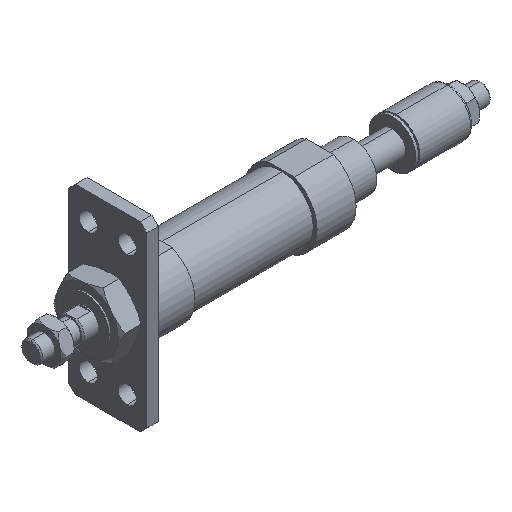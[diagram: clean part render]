
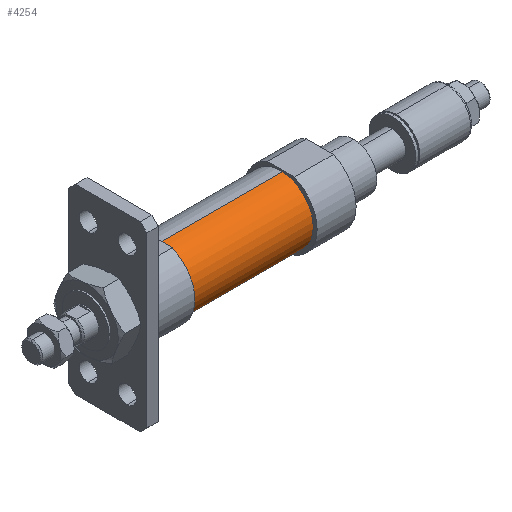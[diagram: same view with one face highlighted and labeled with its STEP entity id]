
A CAD part, isometric view. The second image highlights one B-rep face of the part: STEP entity #4254.
In plain terms, the highlighted cylindrical face has radius 12.5 mm (diameter 25 mm), a partial arc.
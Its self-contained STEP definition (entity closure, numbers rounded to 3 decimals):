
#140 = CARTESIAN_POINT ( 'NONE',  ( 23.5, 0., -12.5 ) ) ;
#209 = EDGE_CURVE ( 'NONE', #1628, #1001, #1740, .T. ) ;
#301 = CARTESIAN_POINT ( 'NONE',  ( 23.5, 0., -12.5 ) ) ;
#316 = DIRECTION ( 'NONE',  ( 0., 0., 1. ) ) ;
#402 = DIRECTION ( 'NONE',  ( -1., 0., 0. ) ) ;
#616 = EDGE_CURVE ( 'NONE', #3781, #2758, #1072, .T. ) ;
#769 = CARTESIAN_POINT ( 'NONE',  ( 23.5, 0., 0. ) ) ;
#902 = DIRECTION ( 'NONE',  ( 0., 0., -1. ) ) ;
#959 = VECTOR ( 'NONE', #2240, 1000. ) ;
#1001 = VERTEX_POINT ( 'NONE', #140 ) ;
#1072 = CIRCLE ( 'NONE', #2599, 12.5 ) ;
#1362 = EDGE_LOOP ( 'NONE', ( #3340, #2201, #3021, #4106 ) ) ;
#1401 = CARTESIAN_POINT ( 'NONE',  ( 23.5, 0., 12.5 ) ) ;
#1549 = CARTESIAN_POINT ( 'NONE',  ( -23.5, 0., -12.5 ) ) ;
#1580 = CARTESIAN_POINT ( 'NONE',  ( 23.5, 0., 12.5 ) ) ;
#1628 = VERTEX_POINT ( 'NONE', #1401 ) ;
#1740 = CIRCLE ( 'NONE', #2864, 12.5 ) ;
#1748 = DIRECTION ( 'NONE',  ( 0., 0., -1. ) ) ;
#1891 = FACE_OUTER_BOUND ( 'NONE', #1362, .T. ) ;
#2201 = ORIENTED_EDGE ( 'NONE', *, *, #209, .F. ) ;
#2240 = DIRECTION ( 'NONE',  ( -1., 0., 0. ) ) ;
#2244 = DIRECTION ( 'NONE',  ( 1., 0., 0. ) ) ;
#2325 = CARTESIAN_POINT ( 'NONE',  ( 23.5, 0., 0. ) ) ;
#2329 = EDGE_CURVE ( 'NONE', #1001, #2758, #2654, .T. ) ;
#2436 = CARTESIAN_POINT ( 'NONE',  ( -23.5, 0., 0. ) ) ;
#2491 = CYLINDRICAL_SURFACE ( 'NONE', #4443, 12.5 ) ;
#2525 = DIRECTION ( 'NONE',  ( 1., 0., 0. ) ) ;
#2599 = AXIS2_PLACEMENT_3D ( 'NONE', #2436, #2525, #902 ) ;
#2654 = LINE ( 'NONE', #301, #3576 ) ;
#2758 = VERTEX_POINT ( 'NONE', #1549 ) ;
#2864 = AXIS2_PLACEMENT_3D ( 'NONE', #2325, #2244, #1748 ) ;
#3021 = ORIENTED_EDGE ( 'NONE', *, *, #4647, .T. ) ;
#3340 = ORIENTED_EDGE ( 'NONE', *, *, #2329, .F. ) ;
#3576 = VECTOR ( 'NONE', #5089, 1000. ) ;
#3781 = VERTEX_POINT ( 'NONE', #4249 ) ;
#4050 = LINE ( 'NONE', #1580, #959 ) ;
#4106 = ORIENTED_EDGE ( 'NONE', *, *, #616, .T. ) ;
#4249 = CARTESIAN_POINT ( 'NONE',  ( -23.5, 0., 12.5 ) ) ;
#4254 = ADVANCED_FACE ( 'NONE', ( #1891 ), #2491, .T. ) ;
#4443 = AXIS2_PLACEMENT_3D ( 'NONE', #769, #402, #316 ) ;
#4647 = EDGE_CURVE ( 'NONE', #1628, #3781, #4050, .T. ) ;
#5089 = DIRECTION ( 'NONE',  ( -1., 0., 0. ) ) ;
